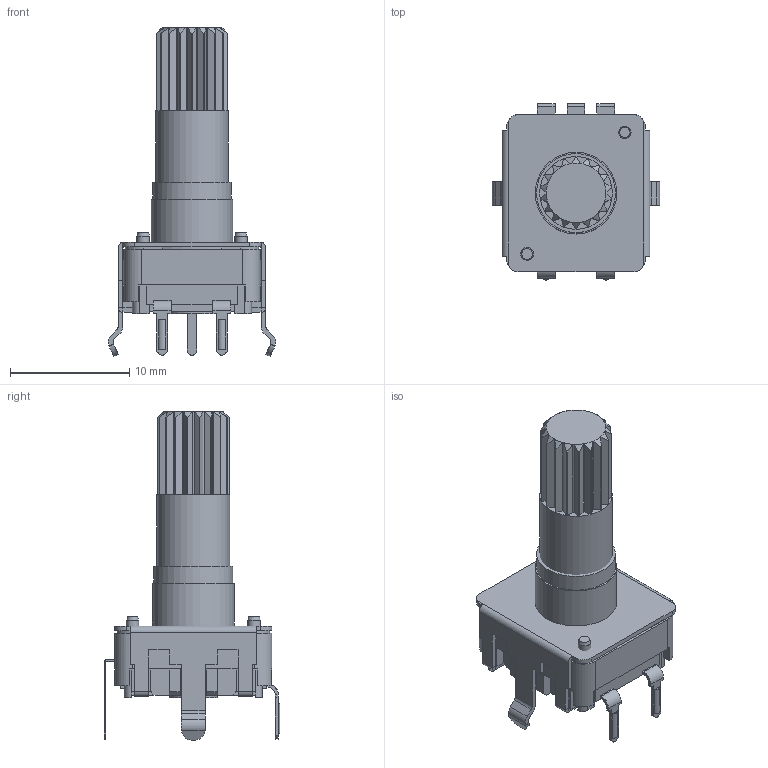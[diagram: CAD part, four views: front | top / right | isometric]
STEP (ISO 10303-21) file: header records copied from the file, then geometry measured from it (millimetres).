
FILE_DESCRIPTION(/* description */ (''),/* implementation_level */ '2;1');
FILE_NAME(/* name */ '\\Forward-ks-ad\開發專區\\X2\9AD896C45EE08A2D8A088AB2\X0\\設計機種開發作業\\X2\91CF75226A5F7A2E5C086848\X0\\ENCODER\機種開發\Encoder\DC12K\3D\CTS\DC12S12204K002.stp',/* time_stamp */ '2020-06-16T11:31:41+08:00',/* author */ ('jia'),/* organization */ (''),/* preprocessor_version */ 'ST-DEVELOPER v15.2',/* originating_system */ 'Autodesk Inventor 2014',/* authorisation */ '');
FILE_SCHEMA (('AUTOMOTIVE_DESIGN { 1 0 10303 214 3 1 1 }'));
Length unit declared in the file: millimetre
Products named in the file (1): 組合1_Shrinkwrap_1
Bounding box: 14.05 x 14.76 x 27.6 mm (x, y, z)
Surface area: 2054.8 mm2 (no closed solid volume)
Topology: 0 solids, 23 shells, 362 faces, 1115 edges, 756 vertices
Faces by surface type: plane 282, cylinder 77, cone 3
Full cylindrical faces by diameter (mm): 1.031 x1, 1.067 x1, 4 x1, 6.1 x1, 6.625 x1, 6.849 x1
Entity records: 12399 total; most frequent: CARTESIAN_POINT 2363, DIRECTION 2008, ORIENTED_EDGE 1848, EDGE_CURVE 1105, LINE 828, VECTOR 828, VERTEX_POINT 755, AXIS2_PLACEMENT_3D 590
